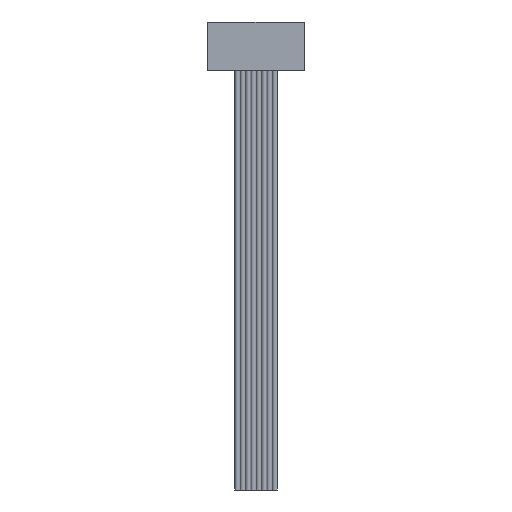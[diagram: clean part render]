
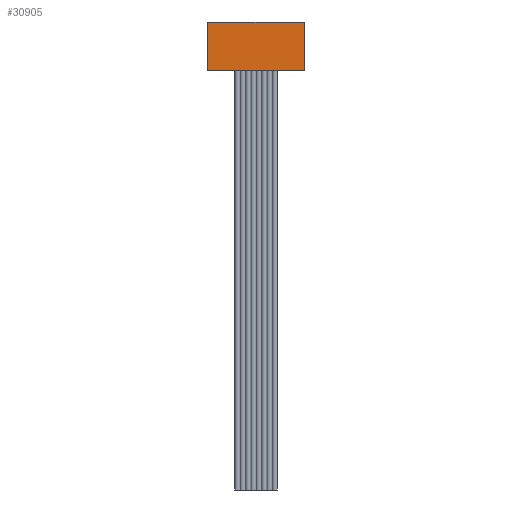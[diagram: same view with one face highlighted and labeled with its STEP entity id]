
A CAD part, front view. The second image highlights one B-rep face of the part: STEP entity #30905.
In plain terms, the highlighted planar face has unit normal (0, -1, 0).
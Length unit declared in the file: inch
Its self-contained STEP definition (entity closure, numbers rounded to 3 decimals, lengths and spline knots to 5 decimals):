
#1045 = VERTEX_POINT ( 'NONE', #9223 ) ;
#1148 = VERTEX_POINT ( 'NONE', #29169 ) ;
#4768 = VECTOR ( 'NONE', #7259, 39.37008 ) ;
#7259 = DIRECTION ( 'NONE',  ( 0., 0., 1. ) ) ;
#7476 = DIRECTION ( 'NONE',  ( 1., 0., 0. ) ) ;
#7551 = AXIS2_PLACEMENT_3D ( 'NONE', #11538, #20985, #9133 ) ;
#9133 = DIRECTION ( 'NONE',  ( 0., 0., 1. ) ) ;
#9223 = CARTESIAN_POINT ( 'NONE',  ( -0.225, -0.0625, -0.225 ) ) ;
#9492 = LINE ( 'NONE', #16370, #29607 ) ;
#10010 = DIRECTION ( 'NONE',  ( 1., 0., 0. ) ) ;
#10281 = EDGE_CURVE ( 'NONE', #1148, #29513, #19954, .T. ) ;
#11538 = CARTESIAN_POINT ( 'NONE',  ( 0.225, -0.0625, -0.225 ) ) ;
#11896 = PLANE ( 'NONE',  #7551 ) ;
#12262 = ORIENTED_EDGE ( 'NONE', *, *, #27403, .T. ) ;
#12379 = CARTESIAN_POINT ( 'NONE',  ( 0.225, -0.0625, -0.225 ) ) ;
#12413 = CARTESIAN_POINT ( 'NONE',  ( 0.225, -0.0625, -0.225 ) ) ;
#13390 = VECTOR ( 'NONE', #7476, 39.37008 ) ;
#15856 = ORIENTED_EDGE ( 'NONE', *, *, #10281, .F. ) ;
#16370 = CARTESIAN_POINT ( 'NONE',  ( -0.225, -0.0625, -0.225 ) ) ;
#18688 = CARTESIAN_POINT ( 'NONE',  ( 0.225, -0.0625, 0. ) ) ;
#18828 = EDGE_CURVE ( 'NONE', #1045, #1148, #9492, .T. ) ;
#19954 = LINE ( 'NONE', #25010, #30923 ) ;
#20985 = DIRECTION ( 'NONE',  ( 0., -1., 0. ) ) ;
#23908 = EDGE_LOOP ( 'NONE', ( #15856, #28527, #12262, #27780 ) ) ;
#24016 = FACE_OUTER_BOUND ( 'NONE', #23908, .T. ) ;
#24029 = LINE ( 'NONE', #12379, #4768 ) ;
#24661 = VERTEX_POINT ( 'NONE', #28013 ) ;
#25010 = CARTESIAN_POINT ( 'NONE',  ( 0.225, -0.0625, 0. ) ) ;
#27403 = EDGE_CURVE ( 'NONE', #1045, #24661, #29177, .T. ) ;
#27585 = EDGE_CURVE ( 'NONE', #24661, #29513, #24029, .T. ) ;
#27780 = ORIENTED_EDGE ( 'NONE', *, *, #27585, .T. ) ;
#28013 = CARTESIAN_POINT ( 'NONE',  ( 0.225, -0.0625, -0.225 ) ) ;
#28482 = DIRECTION ( 'NONE',  ( 0., 0., 1. ) ) ;
#28527 = ORIENTED_EDGE ( 'NONE', *, *, #18828, .F. ) ;
#29169 = CARTESIAN_POINT ( 'NONE',  ( -0.225, -0.0625, 0. ) ) ;
#29177 = LINE ( 'NONE', #12413, #13390 ) ;
#29513 = VERTEX_POINT ( 'NONE', #18688 ) ;
#29607 = VECTOR ( 'NONE', #28482, 39.37008 ) ;
#30905 = ADVANCED_FACE ( 'NONE', ( #24016 ), #11896, .T. ) ;
#30923 = VECTOR ( 'NONE', #10010, 39.37008 ) ;
